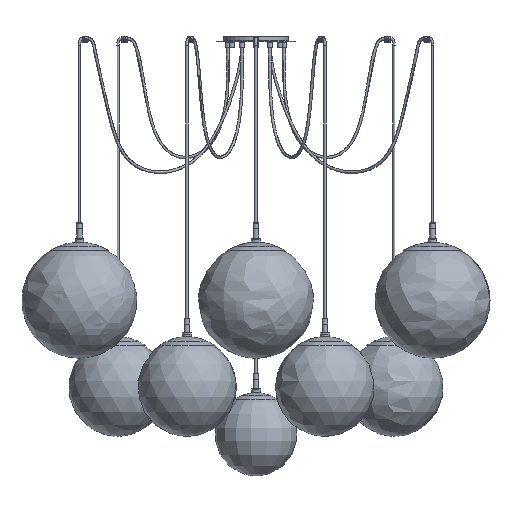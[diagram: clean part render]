
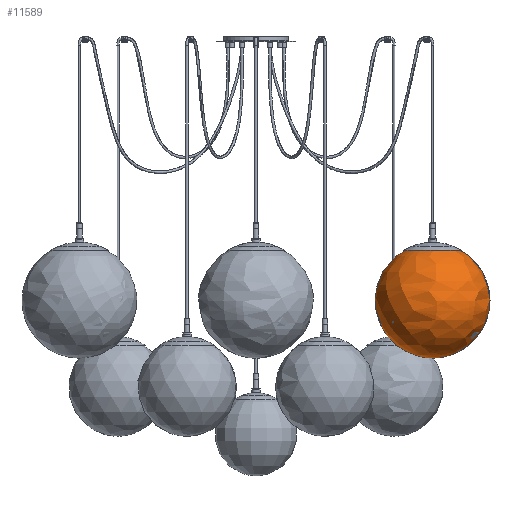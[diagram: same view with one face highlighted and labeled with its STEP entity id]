
A CAD part, left-side view. The second image highlights one B-rep face of the part: STEP entity #11589.
In plain terms, the highlighted free-form (B-spline) face has degree [2, 2] with [5, 9] control points.
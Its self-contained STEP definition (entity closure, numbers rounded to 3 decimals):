
#29=(
BOUNDED_SURFACE()
B_SPLINE_SURFACE(2,2,((#31144,#31145,#31146,#31147,#31148,#31149,#31150,
#31151,#31152),(#31153,#31154,#31155,#31156,#31157,#31158,#31159,#31160,
#31161),(#31162,#31163,#31164,#31165,#31166,#31167,#31168,#31169,#31170),
(#31171,#31172,#31173,#31174,#31175,#31176,#31177,#31178,#31179),(#31180,
#31181,#31182,#31183,#31184,#31185,#31186,#31187,#31188)),.UNSPECIFIED.,
 .F.,.T.,.F.)
B_SPLINE_SURFACE_WITH_KNOTS((3,2,3),(3,2,2,2,3),(-1.219,0.176,
1.571),(-3.142,-1.571,0.,1.571,
3.142),.UNSPECIFIED.)
GEOMETRIC_REPRESENTATION_ITEM()
RATIONAL_B_SPLINE_SURFACE(((1.,0.707,1.,0.707,1.,
0.707,1.,0.707,1.),(0.766,0.542,
0.766,0.542,0.766,0.542,
0.766,0.542,0.766),(1.,0.707,
1.,0.707,1.,0.707,1.,0.707,1.),(0.766,
0.542,0.766,0.542,0.766,
0.542,0.766,0.542,0.766),
(1.,0.707,1.,0.707,1.,0.707,1.,0.707,
1.)))
REPRESENTATION_ITEM('')
SURFACE()
);
#2826=FACE_OUTER_BOUND('',#3730,.T.);
#3730=EDGE_LOOP('',(#9739,#9740,#9741));
#4587=CIRCLE('',#13208,60.38);
#4589=CIRCLE('',#13210,175.);
#5551=VERTEX_POINT('',#31141);
#5552=VERTEX_POINT('',#31189);
#6991=EDGE_CURVE('',#5551,#5551,#4587,.T.);
#6993=EDGE_CURVE('',#5552,#5551,#4589,.T.);
#9739=ORIENTED_EDGE('',*,*,#6993,.T.);
#9740=ORIENTED_EDGE('',*,*,#6991,.T.);
#9741=ORIENTED_EDGE('',*,*,#6993,.F.);
#11589=ADVANCED_FACE('',(#2826),#29,.F.);
#13208=AXIS2_PLACEMENT_3D('',#31142,#16546,#16547);
#13210=AXIS2_PLACEMENT_3D('',#31190,#16550,#16551);
#16546=DIRECTION('center_axis',(0.,0.,
-1.));
#16547=DIRECTION('ref_axis',(0.432,-0.902,0.));
#16550=DIRECTION('center_axis',(-0.432,0.902,0.));
#16551=DIRECTION('ref_axis',(-0.902,-0.432,0.));
#31141=CARTESIAN_POINT('',(-364.451,-563.028,695.169));
#31142=CARTESIAN_POINT('Origin',(-310.,-536.936,695.169));
#31144=CARTESIAN_POINT('Ctrl Pts',(-364.451,-563.028,
695.169));
#31145=CARTESIAN_POINT('Ctrl Pts',(-390.543,-508.577,
695.169));
#31146=CARTESIAN_POINT('Ctrl Pts',(-336.092,-482.485,
695.169));
#31147=CARTESIAN_POINT('Ctrl Pts',(-281.641,-456.393,
695.169));
#31148=CARTESIAN_POINT('Ctrl Pts',(-255.549,-510.844,695.169));
#31149=CARTESIAN_POINT('Ctrl Pts',(-229.457,-565.295,
695.169));
#31150=CARTESIAN_POINT('Ctrl Pts',(-283.908,-591.387,
695.169));
#31151=CARTESIAN_POINT('Ctrl Pts',(-338.359,-617.479,
695.169));
#31152=CARTESIAN_POINT('Ctrl Pts',(-364.451,-563.028,
695.169));
#31153=CARTESIAN_POINT('Ctrl Pts',(-488.654,-622.544,
644.646));
#31154=CARTESIAN_POINT('Ctrl Pts',(-574.263,-443.89,
644.646));
#31155=CARTESIAN_POINT('Ctrl Pts',(-395.608,-358.281,644.646));
#31156=CARTESIAN_POINT('Ctrl Pts',(-216.954,-272.673,
644.646));
#31157=CARTESIAN_POINT('Ctrl Pts',(-131.346,-451.327,
644.646));
#31158=CARTESIAN_POINT('Ctrl Pts',(-45.737,-629.982,
644.646));
#31159=CARTESIAN_POINT('Ctrl Pts',(-224.392,-715.59,
644.646));
#31160=CARTESIAN_POINT('Ctrl Pts',(-403.046,-801.199,644.646));
#31161=CARTESIAN_POINT('Ctrl Pts',(-488.654,-622.544,
644.646));
#31162=CARTESIAN_POINT('Ctrl Pts',(-465.475,-611.437,
500.214));
#31163=CARTESIAN_POINT('Ctrl Pts',(-539.977,-455.962,
500.214));
#31164=CARTESIAN_POINT('Ctrl Pts',(-384.501,-381.46,
500.214));
#31165=CARTESIAN_POINT('Ctrl Pts',(-229.026,-306.959,500.214));
#31166=CARTESIAN_POINT('Ctrl Pts',(-154.525,-462.434,
500.214));
#31167=CARTESIAN_POINT('Ctrl Pts',(-80.023,-617.91,500.214));
#31168=CARTESIAN_POINT('Ctrl Pts',(-235.499,-692.411,
500.214));
#31169=CARTESIAN_POINT('Ctrl Pts',(-390.974,-766.913,500.214));
#31170=CARTESIAN_POINT('Ctrl Pts',(-465.475,-611.437,
500.214));
#31171=CARTESIAN_POINT('Ctrl Pts',(-442.297,-600.33,
355.782));
#31172=CARTESIAN_POINT('Ctrl Pts',(-505.691,-468.034,
355.782));
#31173=CARTESIAN_POINT('Ctrl Pts',(-373.394,-404.639,
355.782));
#31174=CARTESIAN_POINT('Ctrl Pts',(-241.098,-341.245,355.782));
#31175=CARTESIAN_POINT('Ctrl Pts',(-177.703,-473.541,
355.782));
#31176=CARTESIAN_POINT('Ctrl Pts',(-114.309,-605.838,355.782));
#31177=CARTESIAN_POINT('Ctrl Pts',(-246.606,-669.232,
355.782));
#31178=CARTESIAN_POINT('Ctrl Pts',(-378.902,-732.627,
355.782));
#31179=CARTESIAN_POINT('Ctrl Pts',(-442.297,-600.33,
355.782));
#31180=CARTESIAN_POINT('Ctrl Pts',(-310.,-536.936,
355.874));
#31181=CARTESIAN_POINT('Ctrl Pts',(-310.,-536.936,
355.874));
#31182=CARTESIAN_POINT('Ctrl Pts',(-310.,-536.936,
355.874));
#31183=CARTESIAN_POINT('Ctrl Pts',(-310.,-536.936,
355.874));
#31184=CARTESIAN_POINT('Ctrl Pts',(-310.,-536.936,
355.874));
#31185=CARTESIAN_POINT('Ctrl Pts',(-310.,-536.936,
355.874));
#31186=CARTESIAN_POINT('Ctrl Pts',(-310.,-536.936,
355.874));
#31187=CARTESIAN_POINT('Ctrl Pts',(-310.,-536.936,
355.874));
#31188=CARTESIAN_POINT('Ctrl Pts',(-310.,-536.936,
355.874));
#31189=CARTESIAN_POINT('',(-310.,-536.936,355.874));
#31190=CARTESIAN_POINT('Origin',(-310.1,-536.984,530.874));
